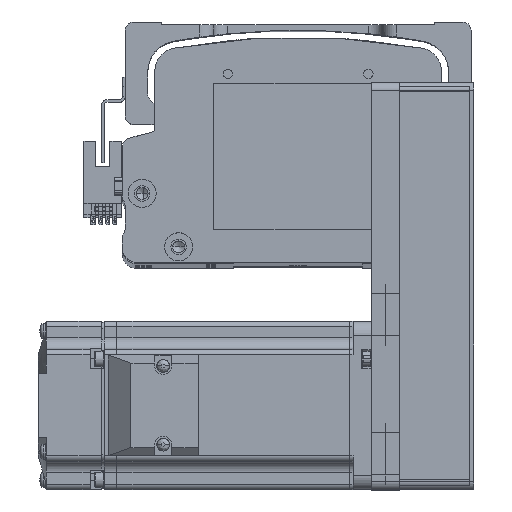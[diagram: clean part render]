
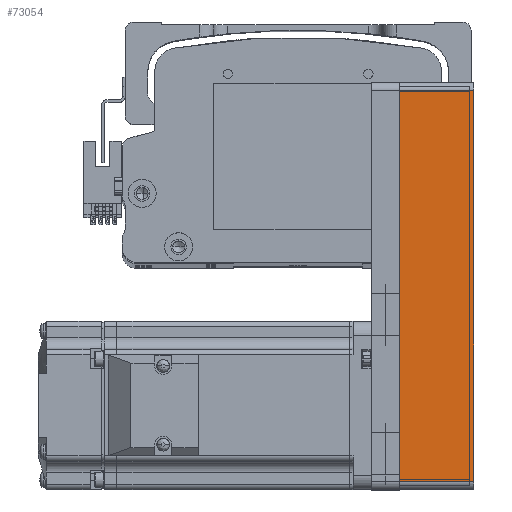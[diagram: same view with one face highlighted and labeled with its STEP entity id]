
A CAD part, top view. The second image highlights one B-rep face of the part: STEP entity #73054.
In plain terms, the highlighted planar face has unit normal (0, 0, 1) as drawn and (0, -1, 0) by its records, which use the part's own axes.
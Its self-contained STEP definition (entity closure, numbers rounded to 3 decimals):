
#1328 = VECTOR ( 'NONE', #68044, 1000. ) ;
#2412 = EDGE_CURVE ( 'NONE', #18027, #19309, #30520, .T. ) ;
#5562 = CARTESIAN_POINT ( 'NONE',  ( 69.5, -30., 26.5 ) ) ;
#9924 = CARTESIAN_POINT ( 'NONE',  ( 72.5, -30., 0. ) ) ;
#10183 = ORIENTED_EDGE ( 'NONE', *, *, #77793, .F. ) ;
#13886 = CARTESIAN_POINT ( 'NONE',  ( 72.5, -30., 26.5 ) ) ;
#15336 = CARTESIAN_POINT ( 'NONE',  ( 69.5, -30., 0. ) ) ;
#16762 = DIRECTION ( 'NONE',  ( 1., 0., 0. ) ) ;
#17031 = CARTESIAN_POINT ( 'NONE',  ( 72.5, -30., 26.5 ) ) ;
#18027 = VERTEX_POINT ( 'NONE', #15336 ) ;
#19309 = VERTEX_POINT ( 'NONE', #5562 ) ;
#19362 = VECTOR ( 'NONE', #16762, 1000. ) ;
#20144 = EDGE_CURVE ( 'NONE', #72172, #18027, #70021, .T. ) ;
#20414 = DIRECTION ( 'NONE',  ( -1., 0., 0. ) ) ;
#27131 = DIRECTION ( 'NONE',  ( 0., 0., 1. ) ) ;
#29934 = ORIENTED_EDGE ( 'NONE', *, *, #65072, .T. ) ;
#30520 = LINE ( 'NONE', #33306, #62769 ) ;
#31855 = FACE_OUTER_BOUND ( 'NONE', #60465, .T. ) ;
#33306 = CARTESIAN_POINT ( 'NONE',  ( 69.5, -30., 26.5 ) ) ;
#37553 = DIRECTION ( 'NONE',  ( 0., 0., -1. ) ) ;
#53667 = LINE ( 'NONE', #17031, #19362 ) ;
#59029 = DIRECTION ( 'NONE',  ( 0., 1., 0. ) ) ;
#60465 = EDGE_LOOP ( 'NONE', ( #63065, #83582, #10183, #29934 ) ) ;
#60721 = VERTEX_POINT ( 'NONE', #71874 ) ;
#62769 = VECTOR ( 'NONE', #27131, 1000. ) ;
#63065 = ORIENTED_EDGE ( 'NONE', *, *, #20144, .T. ) ;
#63181 = CARTESIAN_POINT ( 'NONE',  ( -69.5, -30., 26.5 ) ) ;
#65069 = VECTOR ( 'NONE', #37553, 1000. ) ;
#65072 = EDGE_CURVE ( 'NONE', #60721, #72172, #67085, .T. ) ;
#67085 = LINE ( 'NONE', #63181, #65069 ) ;
#68044 = DIRECTION ( 'NONE',  ( 1., 0., 0. ) ) ;
#70021 = LINE ( 'NONE', #9924, #1328 ) ;
#71347 = AXIS2_PLACEMENT_3D ( 'NONE', #13886, #59029, #20414 ) ;
#71738 = PLANE ( 'NONE',  #71347 ) ;
#71874 = CARTESIAN_POINT ( 'NONE',  ( -69.5, -30., 26.5 ) ) ;
#72172 = VERTEX_POINT ( 'NONE', #80023 ) ;
#73054 = ADVANCED_FACE ( 'NONE', ( #31855 ), #71738, .F. ) ;
#77793 = EDGE_CURVE ( 'NONE', #60721, #19309, #53667, .T. ) ;
#80023 = CARTESIAN_POINT ( 'NONE',  ( -69.5, -30., 0. ) ) ;
#83582 = ORIENTED_EDGE ( 'NONE', *, *, #2412, .T. ) ;
